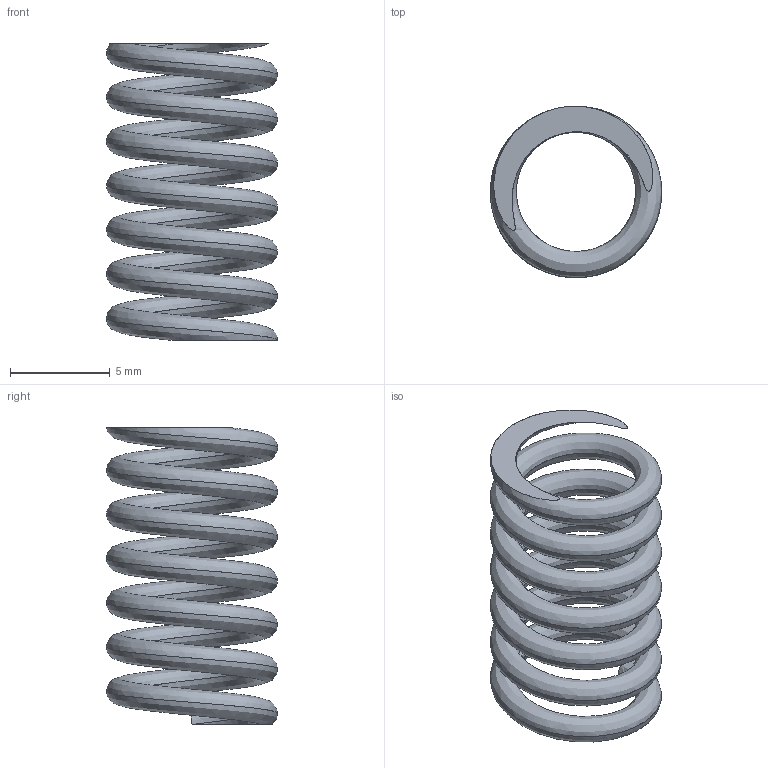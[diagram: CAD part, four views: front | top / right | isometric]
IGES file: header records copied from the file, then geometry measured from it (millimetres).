
Start section: SolidWorks IGES FILE using analytic representation for surfaces
Global section: file name: C:\Documents and Settings\lecoutey\Bureau\GP 2029\02.230.00.IGS; native system: SolidWorks 2004 by SolidWorks Corporation; preprocessor: Version 5.3; author: lecoutey; date: 050329.160639; units: millimetre
Bounding box: 8.6 x 8.6 x 14.91 mm (x, y, z)
Surface area: 643.5 mm2 (no closed solid volume)
Topology: 0 solids, 0 shells, 6 faces, 166 edges, 166 vertices
Faces by surface type: bspline 6
